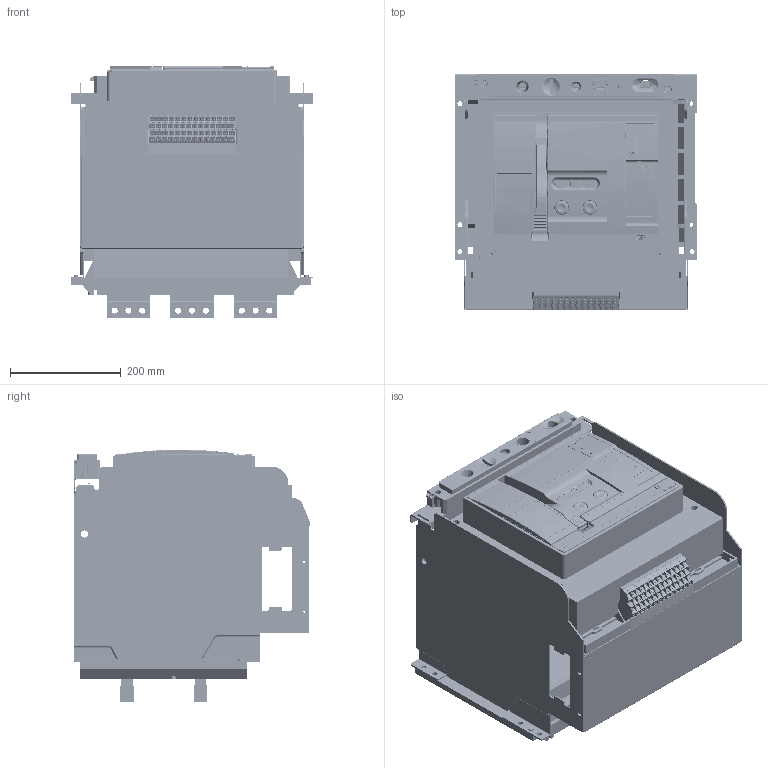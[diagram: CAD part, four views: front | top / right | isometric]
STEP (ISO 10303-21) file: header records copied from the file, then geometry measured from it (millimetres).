
FILE_DESCRIPTION(/* description */ (''),/* implementation_level */ '2;1');
FILE_NAME(/* name */ 'C:/Users/carlos.gonzalez/Documents/ADRIAN_TEMP_DRAWING/Ex9A32_3P_2500_DO_PB_Drawing.step',/* time_stamp */ '2021-10-14T12:50:06+02:00',/* author */ (''),/* organization */ (''),/* preprocessor_version */ 'ST-DEVELOPER v18.1',/* originating_system */ 'Autodesk Translation Framework v10.10.0.1391',/* authorisation */ '');
FILE_SCHEMA (('AUTOMOTIVE_DESIGN { 1 0 10303 214 3 1 1 }'));
Products named in the file (57): Ex9A32_3P_2500_DO; Auxiliary terminals; 5ZTD-558-695-4000_ASM; 5ZTD-558-712_ASM; 5ZTD-558-712_ASM_1; 5ZTD-558-712_ASM_2; 5ZTD-558-712_ASM_3; 5ZTD-558-712_ASM_4; 5ZTD-558-712_ASM_5; 5ZTD-558-712_ASM_6; 5ZTD-558-712_ASM_7; 5ZTD-558-712_ASM_8; 5ZTD-558-712_ASM_9; 5ZTD-558-712_ASM_10; 5ZTD-558-712_ASM_11; 5ZTD-558-712_ASM_12; 5ZTD-558-712_ASM_13; 8ZTD-024-837; 8ZTD-557-514; 8ZTD-557-515; 8ZTD-557-516; 8ZTD-557-517; M3_GB6170; M3X8_GB818; 8ZTD-141-185; 8ZTD-141-184; 8ZTD-860-699; 8ZTD-064-136; Cover; 8253A0101010; 8253A0101108-1; 5300A1526114_ASM; 8300A0101127_34; 8235A0101009_2; 8253A0101002_7; 8320A0101121-0814_3; 8860A0724001_4; 8ZTD_282_1203_AF1_6; 8ZTD_282_1203_AF2_6; 8253A0101107-1_5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
Assembly tree (262 placements, depth 5):
  Ex9A32_3P_2500_DO
    Auxiliary terminals
      5ZTD-558-695-4000_ASM
        5ZTD-558-712_ASM
          8ZTD-024-837
          8ZTD-557-514
          8ZTD-557-515
          8ZTD-557-516
          8ZTD-557-517
          M3_GB6170  x4
          M3X8_GB818  x4
          8ZTD-141-185
          8ZTD-141-184
        5ZTD-558-712_ASM_1
          8ZTD-024-837
          8ZTD-557-514
          8ZTD-557-515
          8ZTD-557-516
          8ZTD-557-517
          M3_GB6170  x4
          M3X8_GB818  x4
          8ZTD-141-185
          8ZTD-141-184
        5ZTD-558-712_ASM_2
          8ZTD-024-837
          8ZTD-557-514
          8ZTD-557-515
          8ZTD-557-516
          8ZTD-557-517
          M3_GB6170  x4
          M3X8_GB818  x4
          8ZTD-141-185
          8ZTD-141-184
        5ZTD-558-712_ASM_3
          8ZTD-024-837
          8ZTD-557-514
          8ZTD-557-515
          8ZTD-557-516
          8ZTD-557-517
          M3_GB6170  x4
          M3X8_GB818  x4
          8ZTD-141-185
          8ZTD-141-184
        5ZTD-558-712_ASM_4
          8ZTD-024-837
          8ZTD-557-514
          8ZTD-557-515
          8ZTD-557-516
          8ZTD-557-517
          M3_GB6170  x4
          M3X8_GB818  x4
          8ZTD-141-185
          8ZTD-141-184
        5ZTD-558-712_ASM_5
          8ZTD-024-837
          8ZTD-557-514
          8ZTD-557-515
          8ZTD-557-516
          8ZTD-557-517
          M3_GB6170  x4
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Bounding box: 439 x 428.53 x 456.99 mm (x, y, z)
Volume: 13874097.6 mm3; surface area: 3489586.6 mm2
Topology: 241 solids, 307 shells, 18801 faces, 49994 edges, 32472 vertices
Faces by surface type: plane 14012, cylinder 2571, bspline 875, cone 831, torus 393, sphere 119
Full cylindrical faces by diameter (mm): 2 x539, 2.1 x2, 2.246 x56, 2.5 x3, 2.6 x2, 3 x86, 3.2 x6, 3.3 x1, 3.5 x45, 4 x85, 4.3 x1, 4.4 x2, 4.5 x3, 5 x17, 5.008 x1, 5.5 x1, 6 x5, 6.1 x1, 6.5 x5, 7 x7, 8 x2, 8.3 x2, 8.5 x24, 9 x12, 10 x24, 11 x21, 12 x4, 12.5 x1, 13 x5, 14 x3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
Entity records: 237679 total; most frequent: CARTESIAN_POINT 93951, ORIENTED_EDGE 30080, DIRECTION 28346, EDGE_CURVE 15084, LINE 10766, VECTOR 10766, VERTEX_POINT 9764, AXIS2_PLACEMENT_3D 8790
